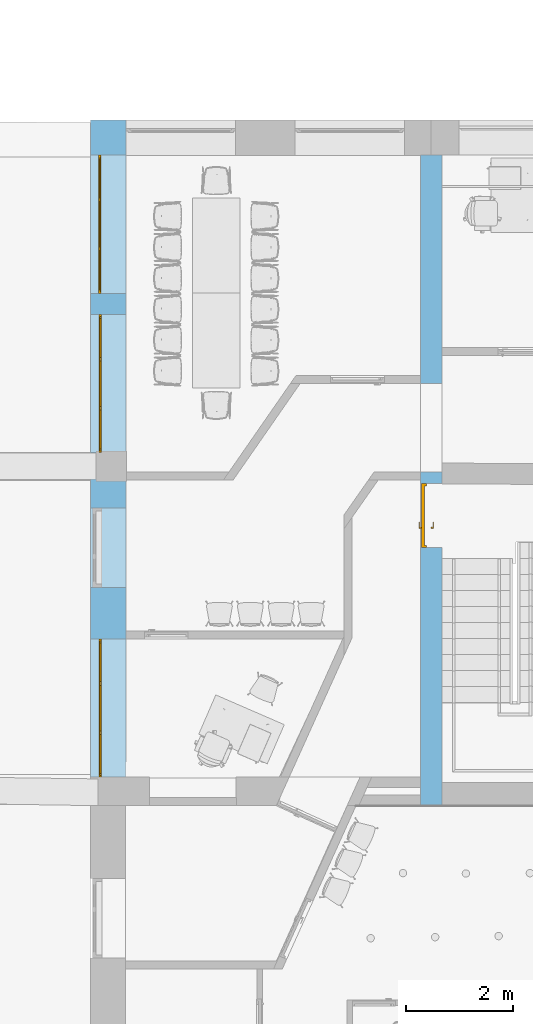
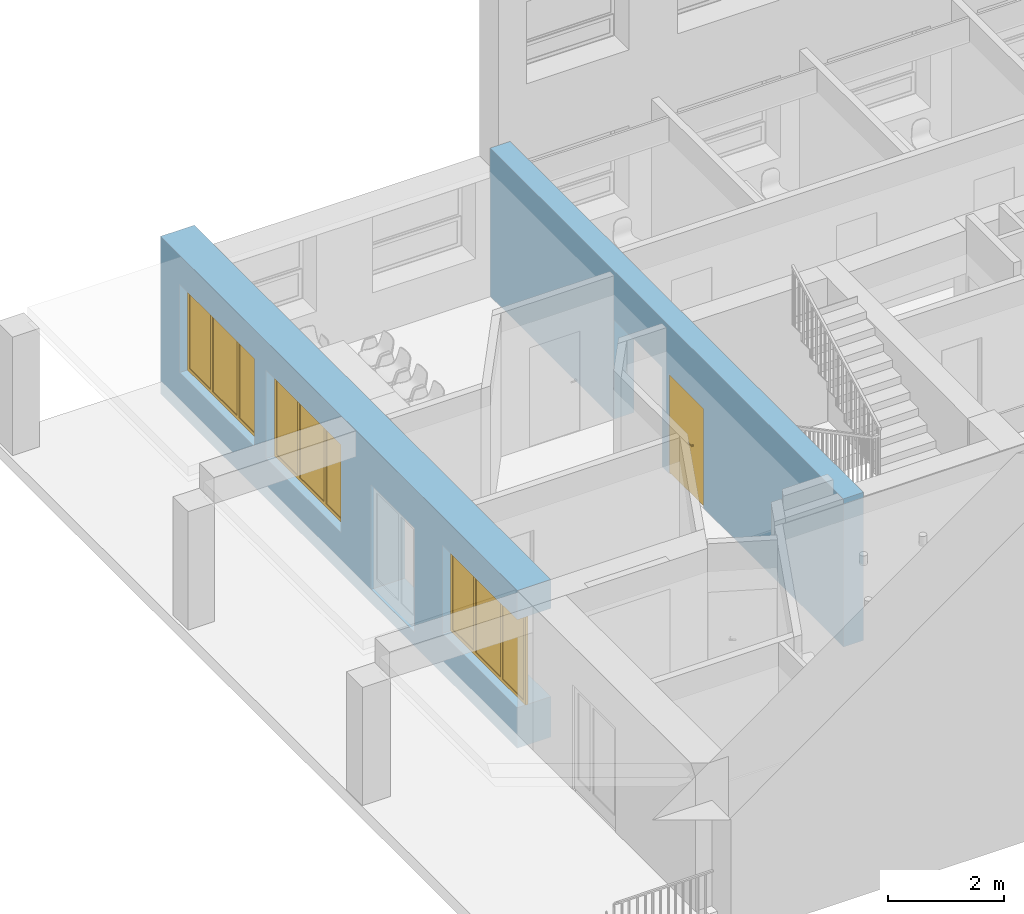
# One storey, part 15 of 25: 3 windows, 1 door, 8 openings, plus 2 elements that do not belong to this part.
"""IFC2X3 building model written with IfcOpenShell, lengths in millimetres."""

from ifc_helpers import new_model, entity, si_unit, converted_unit, derived_unit, direction, frame, frame_2d, origin, place, context, subcontext, project, spatial, polyline, rectangle, extrude, clip, bounded_halfspace, faceted_brep, source, transform, mapped, material, material_list, layer, layer_set, layer_usage, type_object, type_shapes, element, fill, save


model = new_model("IFC2X3")

# Units and contexts
model_context = context("Model", 3, precision=0.01, world=origin(), true_north=direction((6.12303176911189e-17, 1.0)))
context_of_model = context(None, 3, precision=0.01, world=origin(), true_north=direction((6.12303176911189e-17, 1.0)))
body_context = subcontext(model_context, "Body", "Model", "MODEL_VIEW")
ifc_project = project(units=[si_unit("LENGTHUNIT", "METRE", prefix="MILLI"), si_unit("AREAUNIT", "SQUARE_METRE"), si_unit("VOLUMEUNIT", "CUBIC_METRE"), converted_unit("PLANEANGLEUNIT", "DEGREE", entity("IfcRatioMeasure", 0.0174532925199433), si_unit("PLANEANGLEUNIT", "RADIAN"), dimensions=[0, 0, 0, 0, 0, 0, 0]), si_unit("MASSUNIT", "GRAM", prefix="KILO"), derived_unit("MASSDENSITYUNIT", [(si_unit("MASSUNIT", "GRAM", prefix="KILO"), 1), (si_unit("LENGTHUNIT", "METRE"), -3)]), si_unit("TIMEUNIT", "SECOND"), si_unit("FREQUENCYUNIT", "HERTZ"), si_unit("THERMODYNAMICTEMPERATUREUNIT", "DEGREE_CELSIUS"), derived_unit("THERMALTRANSMITTANCEUNIT", [(si_unit("MASSUNIT", "GRAM", prefix="KILO"), 1), (si_unit("THERMODYNAMICTEMPERATUREUNIT", "KELVIN"), -1), (si_unit("TIMEUNIT", "SECOND"), -3)]), derived_unit("VOLUMETRICFLOWRATEUNIT", [(si_unit("LENGTHUNIT", "METRE"), 3), (si_unit("TIMEUNIT", "SECOND"), -1)]), si_unit("ELECTRICCURRENTUNIT", "AMPERE"), si_unit("ELECTRICVOLTAGEUNIT", "VOLT"), si_unit("POWERUNIT", "WATT"), si_unit("FORCEUNIT", "NEWTON", prefix="KILO"), si_unit("ILLUMINANCEUNIT", "LUX"), si_unit("LUMINOUSFLUXUNIT", "LUMEN"), si_unit("LUMINOUSINTENSITYUNIT", "CANDELA"), derived_unit("USERDEFINED", [(si_unit("MASSUNIT", "GRAM", prefix="KILO"), -1), (si_unit("LENGTHUNIT", "METRE"), -2), (si_unit("TIMEUNIT", "SECOND"), 3), (si_unit("LUMINOUSFLUXUNIT", "LUMEN"), 1)]), derived_unit("LINEARVELOCITYUNIT", [(si_unit("LENGTHUNIT", "METRE"), 1), (si_unit("TIMEUNIT", "SECOND"), -1)]), si_unit("PRESSUREUNIT", "PASCAL"), derived_unit("USERDEFINED", [(si_unit("LENGTHUNIT", "METRE"), -2), (si_unit("MASSUNIT", "GRAM", prefix="KILO"), 1), (si_unit("TIMEUNIT", "SECOND"), -2)])], contexts=[model_context, context_of_model])

# Site, building, storey
site_placement = place(None, frame((121442.264707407, 135347.995453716, -1800.0)))
site = spatial("IfcSite", under=ifc_project, at=site_placement, Name="Surface", CompositionType="ELEMENT")
building_placement = place(site_placement, origin())
building = spatial("IfcBuilding", under=site, at=building_placement, CompositionType="ELEMENT")
storey_placement = place(building_placement, frame((0.0, 0.0, 1800.0)))
storey = spatial("IfcBuildingStorey", under=building, at=storey_placement, Name="1 korrus", CompositionType="ELEMENT", Elevation=1800.00000000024)

# Wall, openings, door
ifc_material_1 = material(Name="__Betoonelement")
ifc_layer_1 = layer(ifc_material_1, 400.0)
ifc_layer_set_1 = layer_set([ifc_layer_1], Name="Basic Wall:40_Betoon")
ifc_layer_usage_1 = layer_usage(ifc_layer_set_1, "AXIS2", "POSITIVE", -200.0)
wall_type_1 = type_object("IfcWallType", Name="Basic Wall:40_Betoon", PredefinedType="STANDARD", material=ifc_layer_set_1)
wall_1_placement = place(storey_placement, frame((-109493.017140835, -115341.919112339, 0.0), z_axis=(0.0, 0.0, 1.0), x_axis=(0.0, -1.0, 0.0)))
wall_1 = element("IfcWallStandardCase", 1, at=wall_1_placement, inside=storey, type_object=wall_type_1, material=ifc_layer_usage_1, Name="Basic Wall:40_Betoon", ObjectType="Basic Wall:40_Betoon", context=body_context, shape_type="SweptSolid", body=[
    extrude(rectangle(XDim=12198.9278561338, YDim=399.999999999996, at=frame_2d((6099.46392806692, 8.65441052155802e-12), x_axis=(1.0, 0.0))), origin(), (0.0, 0.0, 1.0), 3125.0),
])
opening_1_placement = place(wall_1_placement, origin())
element("IfcOpeningElement", 2, at=opening_1_placement, cuts=wall_1, Name="Basic Wall:40_Betoon", ObjectType="Opening", context=body_context, shape_type="SweptSolid", body=[
    extrude(rectangle(XDim=2100.0, YDim=1661.71422079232, at=frame_2d((0.0, -8.69704308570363e-12), x_axis=(1.0, 0.0))), frame((5107.92345142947, -200.0, 1050.0), z_axis=(0.0, 1.0, 0.0), x_axis=(0.0, 0.0, -1.0)), (0.0, 0.0, 1.0), 400.000000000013),
])
opening_2_placement = place(wall_1_placement, origin())
element("IfcOpeningElement", 3, at=opening_2_placement, cuts=wall_1, Name="Basic Wall:40_Betoon", ObjectType="Opening", context=body_context, shape_type="SweptSolid", body=[
    extrude(rectangle(XDim=1600.0, YDim=670.000000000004, at=frame_2d((-8.66862137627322e-12, 2.27373675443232e-13), x_axis=(0.0, 1.0))), frame((-325.0, -2550.0, 1700.0), z_axis=(0.0, 1.0, 0.0), x_axis=(1.0, 0.0, 0.0)), (0.0, 0.0, 1.0), 2050.0),
])
opening_3_placement = place(wall_1_placement, frame((7360.06748410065, 200.0, 0.0)))
opening_3 = element("IfcOpeningElement", 4, at=opening_3_placement, cuts=wall_1, Name="sma_D02:1200 x 2100mm SU-7 Liigendiga siseuks:1", ObjectType="Opening", context=body_context, shape_type="SweptSolid", body=[
    extrude(rectangle(XDim=2099.99999999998, YDim=1200.0, at=frame_2d((1049.99999999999, 600.0), x_axis=(1.0, 0.0))), frame((0.0, 0.0, 0.0), z_axis=(0.0, -1.0, 0.0), x_axis=(0.0, 0.0, 1.0)), (0.0, 0.0, 1.0), 400.0),
])
ifc_material_2 = material(Name="Metal - Aluminium")
door_style = type_object("IfcDoorStyle", Name="1200 x 2100mm SU-7 Liigendiga siseuks", ConstructionType="USERDEFINED", OperationType="NOTDEFINED", ParameterTakesPrecedence=False, Sizeable=False, material=ifc_material_2)
shared_shape_1 = source(origin(), body_context, "Body", "Brep", [
    faceted_brep([(387.499999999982, 165.0, 1100.0), (387.499999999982, 203.0, 1100.0), (362.499999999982, 203.0, 1100.0), (362.499999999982, 160.0, 1100.0), (482.499999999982, 160.0, 1100.0), (482.499999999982, 165.0, 1100.0), (387.499999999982, 165.0, 1075.0), (482.499999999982, 165.0, 1075.0), (482.499999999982, 160.0, 1075.0), (362.499999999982, 160.0, 1075.0), (362.499999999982, 203.0, 1075.0), (387.499999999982, 203.0, 1075.0)], [[[0, 1, 2, 3, 4, 5]], [[6, 7, 8, 9, 10, 11]], [[1, 0, 6, 11]], [[2, 1, 11, 10]], [[3, 2, 10, 9]], [[4, 3, 9, 8]], [[5, 4, 8, 7]], [[0, 5, 7, 6]]]),
    faceted_brep([(400.0, 203.0, 1125.0), (400.0, 205.0, 1125.0), (350.0, 205.0, 1125.0), (350.0, 203.0, 1125.0), (400.0, 203.0, 1005.0), (350.0, 203.0, 1005.0), (350.0, 205.0, 1005.0), (400.0, 205.0, 1005.0)], [[[0, 1, 2, 3]], [[4, 5, 6, 7]], [[1, 0, 4, 7]], [[2, 1, 7, 6]], [[3, 2, 6, 5]], [[0, 3, 5, 4]]]),
    faceted_brep([(387.499999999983, 420.432966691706, 1100.0), (482.499999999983, 420.432966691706, 1100.0), (482.499999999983, 425.432966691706, 1100.0), (362.499999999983, 425.432966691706, 1100.0), (362.499999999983, 382.432966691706, 1100.0), (387.499999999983, 382.432966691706, 1100.0), (387.499999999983, 420.432966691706, 1075.0), (387.499999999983, 382.432966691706, 1075.0), (362.499999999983, 382.432966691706, 1075.0), (362.499999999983, 425.432966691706, 1075.0), (482.499999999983, 425.432966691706, 1075.0), (482.499999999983, 420.432966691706, 1075.0)], [[[0, 1, 2, 3, 4, 5]], [[6, 7, 8, 9, 10, 11]], [[5, 7, 6, 0]], [[4, 8, 7, 5]], [[3, 9, 8, 4]], [[2, 10, 9, 3]], [[1, 11, 10, 2]], [[0, 6, 11, 1]]]),
    faceted_brep([(400.0, 382.432966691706, 1125.0), (350.0, 382.432966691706, 1125.0), (350.0, 380.432966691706, 1125.0), (400.0, 380.432966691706, 1125.0), (400.0, 382.432966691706, 1005.0), (400.0, 380.432966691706, 1005.0), (350.0, 380.432966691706, 1005.0), (350.0, 382.432966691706, 1005.0)], [[[0, 1, 2, 3]], [[4, 5, 6, 7]], [[3, 5, 4, 0]], [[2, 6, 5, 3]], [[1, 7, 6, 2]], [[0, 4, 7, 1]]]),
    faceted_brep([(1200.0, 290.43296669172, 0.0), (1160.0, 290.43296669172, 0.0), (1160.0, 330.43296669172, 0.0), (1175.0, 330.43296669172, 0.0), (1175.0, 380.43296669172, 0.0), (1200.0, 380.43296669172, 0.0), (1200.0, 290.43296669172, 2100.0), (0.0, 290.432966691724, 2100.0), (0.0, 290.432966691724, 0.0), (40.0, 290.432966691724, 0.0), (40.0, 290.432966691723, 2060.0), (1160.0, 290.43296669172, 2060.0), (1160.0, 330.43296669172, 2060.0), (40.0, 330.432966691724, 2060.0), (40.0, 330.432966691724, 0.0), (25.0, 330.432966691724, 0.0), (25.0, 330.432966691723, 2075.0), (1175.0, 330.43296669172, 2075.0), (1175.0, 380.43296669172, 2075.0), (25.0, 380.432966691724, 2075.0), (25.0, 380.432966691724, 0.0), (0.0, 380.432966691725, 0.0), (0.0, 380.432966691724, 2100.0), (1200.0, 380.43296669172, 2100.0)], [[[0, 1, 2, 3, 4, 5]], [[1, 0, 6, 7, 8, 9, 10, 11]], [[2, 1, 11, 12]], [[3, 2, 12, 13, 14, 15, 16, 17]], [[4, 3, 17, 18]], [[5, 4, 18, 19, 20, 21, 22, 23]], [[0, 5, 23, 6]], [[7, 22, 21, 8]], [[8, 21, 20, 15, 14, 9]], [[13, 10, 9, 14]], [[19, 16, 15, 20]], [[12, 11, 10, 13]], [[18, 17, 16, 19]], [[6, 23, 22, 7]]]),
    faceted_brep([(25.0, 330.432966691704, 20.0), (300.0, 330.432966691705, 20.0), (300.0, 330.432966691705, 2075.0), (25.0, 330.432966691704, 2075.0), (25.0, 380.432966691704, 20.0), (25.0, 380.432966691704, 2075.0), (300.0, 380.432966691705, 2075.0), (300.0, 380.432966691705, 20.0)], [[[0, 1, 2, 3]], [[4, 5, 6, 7]], [[1, 0, 4, 7]], [[2, 1, 7, 6]], [[3, 2, 6, 5]], [[0, 3, 5, 4]]]),
    faceted_brep([(300.0, 330.432966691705, 2075.0), (300.0, 330.432966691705, 20.0), (1175.0, 330.432966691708, 20.0), (1175.0, 330.432966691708, 2075.0), (300.0, 380.432966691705, 2075.0), (1175.0, 380.432966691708, 2075.0), (1175.0, 380.432966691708, 20.0), (300.0, 380.432966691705, 20.0)], [[[0, 1, 2, 3]], [[4, 5, 6, 7]], [[1, 0, 4, 7]], [[2, 1, 7, 6]], [[3, 2, 6, 5]], [[0, 3, 5, 4]]]),
])
type_shapes(door_style, [shared_shape_1])
door_placement = place(opening_3_placement, frame((0.0, 0.0, 0.0), z_axis=(0.0, 0.0, 1.0), x_axis=(-1.0, 0.0, 0.0)))
door = element("IfcDoor", 5, at=door_placement, inside=storey, type_object=door_style, material=ifc_material_2, Name="sma_D02:1200 x 2100mm SU-7 Liigendiga siseuks", ObjectType="1200 x 2100mm SU-7 Liigendiga siseuks", OverallHeight=2099.99999999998, OverallWidth=1200.0, context=body_context, shape_type="MappedRepresentation", body=[
    mapped(shared_shape_1, transform((0.0, 0.0, 0.0), scale=1.0)),
])
fill(opening_3, door)

# Wall, openings, windows
ifc_material_3 = material(Name="Plaster")
ifc_layer_2 = layer(ifc_material_3, 10.0)
ifc_material_4 = material(Name="EST. Soojustus. Kivivill. Default")
ifc_layer_3 = layer(ifc_material_4, 200.0)
ifc_material_5 = material(Name="EST. Müüritis. Väikeplokk. Kergkruusplokk")
ifc_layer_4 = layer(ifc_material_5, 450.0)
ifc_layer_5 = layer(ifc_material_3, 10.0)
ifc_layer_set_2 = layer_set([ifc_layer_2, ifc_layer_3, ifc_layer_4, ifc_layer_5], Name="Basic Wall:Uus Välissein +  Soojustus")
ifc_layer_usage_2 = layer_usage(ifc_layer_set_2, "AXIS2", "NEGATIVE", 335.0)
wall_type_2 = type_object("IfcWallType", Name="Basic Wall:Uus Välissein +  Soojustus", PredefinedType="STANDARD", material=ifc_layer_set_2)
wall_2_placement = place(storey_placement, frame((-115550.776610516, -127001.313002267, -293.0), z_axis=(0.0, 0.0, 1.0), x_axis=(0.0, 1.0, 0.0)))
wall_2 = element("IfcWallStandardCase", 6, at=wall_2_placement, inside=storey, type_object=wall_type_2, material=ifc_layer_usage_2, Name="Basic Wall:Uus Välissein +  Soojustus", ObjectType="Basic Wall:Uus Välissein +  Soojustus", context=body_context, shape_type="Clipping", body=[
    clip(extrude(rectangle(XDim=12319.3938899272, YDim=669.999999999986, at=frame_2d((6159.6969449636, -8.24229573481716e-13), x_axis=(-1.0, 0.0))), origin(), (0.0, 0.0, 1.0), 3325.0), bounded_halfspace(frame((0.0, -335.0, 3325.0), z_axis=(0.0, 0.0, -1.0), x_axis=(-1.0, 0.0, 0.0)), True, frame((0.0, -335.0, 3325.0)), polyline([(0.0, 0.0), (2586.5444377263, 0.0), (2736.5444377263, 0.0), (11897.7285110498, 0.0), (11897.7285110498, 670.0), (0.0, 670.0), (0.0, 0.0)]))),
])
opening_4_placement = place(wall_2_placement, origin())
element("IfcOpeningElement", 7, at=opening_4_placement, cuts=wall_2, Name="Basic Wall:Uus Välissein +  Soojustus", ObjectType="Opening", context=body_context, shape_type="SweptSolid", body=[
    extrude(rectangle(XDim=2099.99999999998, YDim=150.000000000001, at=frame_2d((0.0, 3.41060513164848e-13), x_axis=(0.0, 1.0))), frame((2661.54443772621, -1495.0, 1343.0), z_axis=(0.0, 1.0, 0.0), x_axis=(1.0, 0.0, 0.0)), (0.0, 0.0, 1.0), 810.000000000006),
])
opening_5_placement = place(wall_2_placement, frame((-5.15156816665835, -335.0, 853.0)))
opening_5 = element("IfcOpeningElement", 8, at=opening_5_placement, cuts=wall_2, Name="sma_W5:A-6 2590 x 1700mm Mitteavatav:1", ObjectType="Opening", context=body_context, shape_type="SweptSolid", body=[
    extrude(rectangle(XDim=1860.0, YDim=2590.0, at=frame_2d((930.0, 1295.0), x_axis=(1.0, 0.0))), frame((0.0, 0.0, 0.0), z_axis=(0.0, 1.0, 0.0), x_axis=(0.0, 0.0, 1.0)), (0.0, 0.0, 1.0), 670.0),
])
opening_6_placement = place(wall_2_placement, frame((3554.84843183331, -335.0, 293.0)))
element("IfcOpeningElement", 9, at=opening_6_placement, cuts=wall_2, Name="ULO1 - ulkolasipariovi:1400x2200 VU-1 Välisuks:1", ObjectType="Opening", context=body_context, shape_type="SweptSolid", body=[
    extrude(rectangle(XDim=2200.0, YDim=1490.0, at=frame_2d((1100.0, 745.0), x_axis=(1.0, 0.0))), frame((0.0, 0.0, 0.0), z_axis=(0.0, 1.0, 0.0), x_axis=(0.0, 0.0, 1.0)), (0.0, 0.0, 1.0), 670.0),
])
opening_7_placement = place(wall_2_placement, frame((9069.39388992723, -335.0, 853.0)))
opening_7 = element("IfcOpeningElement", 10, at=opening_7_placement, cuts=wall_2, Name="sma_W5:A-6 2590 x 1700mm Mitteavatav:1", ObjectType="Opening", context=body_context, shape_type="SweptSolid", body=[
    extrude(rectangle(XDim=1860.0, YDim=2590.0, at=frame_2d((930.0, 1295.0), x_axis=(1.0, 0.0))), frame((0.0, 0.0, 0.0), z_axis=(0.0, 1.0, 0.0), x_axis=(0.0, 0.0, 1.0)), (0.0, 0.0, 1.0), 670.0),
])
opening_8_placement = place(wall_2_placement, frame((6079.39388992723, -335.0, 853.0)))
opening_8 = element("IfcOpeningElement", 11, at=opening_8_placement, cuts=wall_2, Name="sma_W5:A-6 2590 x 1700mm Mitteavatav:1", ObjectType="Opening", context=body_context, shape_type="SweptSolid", body=[
    extrude(rectangle(XDim=1860.0, YDim=2590.0, at=frame_2d((930.0, 1295.0), x_axis=(1.0, 0.0))), frame((0.0, 0.0, 0.0), z_axis=(0.0, 1.0, 0.0), x_axis=(0.0, 0.0, 1.0)), (0.0, 0.0, 1.0), 670.0),
])
ifc_material_6 = material(Name="Glass")
ifc_material_7 = material(Name="PVC")
ifc_material_list_1 = material_list([ifc_material_6, ifc_material_7])
ifc_material_list_2 = material_list([ifc_material_6, ifc_material_7])
window_style_1 = type_object("IfcWindowStyle", Name="A-6 2590 x 1700mm Mitteavatav", ConstructionType="OTHER_CONSTRUCTION", OperationType="NOTDEFINED", ParameterTakesPrecedence=False, Sizeable=False, material=ifc_material_list_2)
shared_shape_2 = source(origin(), body_context, "Body", "Brep", [
    faceted_brep([(70.0, 480.730916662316, 70.0), (800.0, 480.730916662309, 70.0), (800.0, 480.730916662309, 1790.0), (70.0, 480.730916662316, 1790.0), (70.0, 500.730916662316, 70.0), (800.0, 500.730916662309, 70.0), (800.0, 500.730916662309, 1790.0), (70.0, 500.730916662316, 1790.0)], [[[0, 1, 2, 3]], [[1, 0, 4, 5]], [[2, 1, 5, 6]], [[0, 3, 7, 4]], [[4, 7, 6, 5]], [[3, 2, 6, 7]]]),
    faceted_brep([(870.0, 480.730916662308, 70.0), (1720.0, 480.7309166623, 70.0), (1720.0, 480.7309166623, 1790.0), (870.0, 480.730916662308, 1790.0), (870.0, 500.730916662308, 70.0), (1720.0, 500.7309166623, 70.0), (1720.0, 500.7309166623, 1790.0), (870.0, 500.730916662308, 1790.0)], [[[0, 1, 2, 3]], [[1, 0, 4, 5]], [[2, 1, 5, 6]], [[0, 3, 7, 4]], [[4, 7, 6, 5]], [[3, 2, 6, 7]]]),
    faceted_brep([(1790.0, 480.730916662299, 70.0), (2520.0, 480.730916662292, 70.0), (2520.0, 480.730916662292, 1790.0), (1790.0, 480.730916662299, 1790.0), (1790.0, 500.730916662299, 70.0), (2520.0, 500.730916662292, 70.0), (2520.0, 500.730916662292, 1790.0), (1790.0, 500.730916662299, 1790.0)], [[[0, 1, 2, 3]], [[1, 0, 4, 5]], [[2, 1, 5, 6]], [[0, 3, 7, 4]], [[4, 7, 6, 5]], [[3, 2, 6, 7]]]),
    faceted_brep([(0.0, 465.730916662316, 0.0), (2590.0, 465.730916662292, 0.0), (2590.0, 465.730916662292, 1860.0), (0.0, 465.730916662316, 1860.0), (35.0, 465.730916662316, 1825.0), (2555.0, 465.730916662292, 1825.0), (2555.0, 465.730916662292, 35.0), (35.0, 465.730916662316, 35.0), (0.0, 515.730916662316, 0.0), (2590.0, 515.730916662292, 0.0), (2590.0, 515.730916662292, 1860.0), (0.0, 515.730916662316, 1860.0), (2555.0, 490.730916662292, 1825.0), (2555.0, 490.730916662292, 35.0), (35.0, 490.730916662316, 35.0), (35.0, 490.730916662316, 1825.0), (70.0, 515.730916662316, 70.0), (800.0, 515.730916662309, 70.0), (800.0, 515.730916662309, 1790.0), (70.0, 515.730916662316, 1790.0), (870.0, 515.730916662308, 1790.0), (870.0, 515.730916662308, 70.0), (1720.0, 515.7309166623, 70.0), (1720.0, 515.7309166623, 1790.0), (1790.0, 515.730916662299, 70.0), (2520.0, 515.730916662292, 70.0), (2520.0, 515.730916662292, 1790.0), (1790.0, 515.730916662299, 1790.0), (1790.0, 490.730916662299, 70.0), (2520.0, 490.730916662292, 70.0), (2520.0, 490.730916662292, 1790.0), (1790.0, 490.730916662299, 1790.0), (870.0, 490.730916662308, 1790.0), (870.0, 490.730916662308, 70.0), (1720.0, 490.7309166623, 70.0), (1720.0, 490.7309166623, 1790.0), (70.0, 490.730916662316, 70.0), (800.0, 490.730916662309, 70.0), (800.0, 490.730916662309, 1790.0), (70.0, 490.730916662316, 1790.0)], [[[0, 1, 2, 3], [4, 5, 6, 7]], [[1, 0, 8, 9]], [[2, 1, 9, 10]], [[0, 3, 11, 8]], [[12, 13, 6, 5]], [[6, 13, 14, 7]], [[14, 15, 4, 7]], [[8, 11, 10, 9], [16, 17, 18, 19], [20, 21, 22, 23], [24, 25, 26, 27]], [[25, 24, 28, 29]], [[26, 25, 29, 30]], [[24, 27, 31, 28]], [[21, 20, 32, 33]], [[22, 21, 33, 34]], [[23, 22, 34, 35]], [[17, 16, 36, 37]], [[18, 17, 37, 38]], [[16, 19, 39, 36]], [[13, 12, 15, 14], [28, 31, 30, 29], [36, 39, 38, 37], [32, 35, 34, 33]], [[3, 2, 10, 11]], [[15, 12, 5, 4]], [[27, 26, 30, 31]], [[20, 23, 35, 32]], [[19, 18, 38, 39]]]),
])
type_shapes(window_style_1, [shared_shape_2])
window_1_placement = place(opening_7_placement, origin())
window_1 = element("IfcWindow", 12, at=window_1_placement, inside=storey, type_object=window_style_1, material=ifc_material_list_1, Name="sma_W5:A-6 2590 x 1700mm Mitteavatav", ObjectType="A-6 2590 x 1700mm Mitteavatav", OverallHeight=1860.0, OverallWidth=2590.0, context=body_context, shape_type="MappedRepresentation", body=[
    mapped(shared_shape_2, transform((0.0, 0.0, 0.0), scale=1.0)),
])
fill(opening_7, window_1)
ifc_material_list_3 = material_list([ifc_material_6, ifc_material_7])
ifc_material_list_4 = material_list([ifc_material_6, ifc_material_7])
window_style_2 = type_object("IfcWindowStyle", Name="A-6 2590 x 1700mm Mitteavatav", ConstructionType="OTHER_CONSTRUCTION", OperationType="NOTDEFINED", ParameterTakesPrecedence=False, Sizeable=False, material=ifc_material_list_4)
shared_shape_3 = source(origin(), body_context, "Body", "Brep", [
    faceted_brep([(70.0, 473.696191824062, 70.0), (800.0, 473.696191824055, 70.0), (800.0, 473.696191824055, 1790.0), (70.0, 473.696191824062, 1790.0), (70.0, 493.696191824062, 70.0), (800.0, 493.696191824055, 70.0), (800.0, 493.696191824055, 1790.0), (70.0, 493.696191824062, 1790.0)], [[[0, 1, 2, 3]], [[1, 0, 4, 5]], [[2, 1, 5, 6]], [[0, 3, 7, 4]], [[4, 7, 6, 5]], [[3, 2, 6, 7]]]),
    faceted_brep([(870.0, 473.696191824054, 70.0), (1720.0, 473.696191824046, 70.0), (1720.0, 473.696191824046, 1790.0), (870.0, 473.696191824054, 1790.0), (870.0, 493.696191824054, 70.0), (1720.0, 493.696191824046, 70.0), (1720.0, 493.696191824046, 1790.0), (870.0, 493.696191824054, 1790.0)], [[[0, 1, 2, 3]], [[1, 0, 4, 5]], [[2, 1, 5, 6]], [[0, 3, 7, 4]], [[4, 7, 6, 5]], [[3, 2, 6, 7]]]),
    faceted_brep([(1790.0, 473.696191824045, 70.0), (2520.0, 473.696191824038, 70.0), (2520.0, 473.696191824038, 1790.0), (1790.0, 473.696191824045, 1790.0), (1790.0, 493.696191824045, 70.0), (2520.0, 493.696191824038, 70.0), (2520.0, 493.696191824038, 1790.0), (1790.0, 493.696191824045, 1790.0)], [[[0, 1, 2, 3]], [[1, 0, 4, 5]], [[2, 1, 5, 6]], [[0, 3, 7, 4]], [[4, 7, 6, 5]], [[3, 2, 6, 7]]]),
    faceted_brep([(0.0, 458.696191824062, 0.0), (2590.0, 458.696191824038, 0.0), (2590.0, 458.696191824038, 1860.0), (0.0, 458.696191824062, 1860.0), (35.0, 458.696191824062, 1825.0), (2555.0, 458.696191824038, 1825.0), (2555.0, 458.696191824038, 35.0), (35.0, 458.696191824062, 35.0), (0.0, 508.696191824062, 0.0), (2590.0, 508.696191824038, 0.0), (2590.0, 508.696191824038, 1860.0), (0.0, 508.696191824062, 1860.0), (2555.0, 483.696191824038, 1825.0), (2555.0, 483.696191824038, 35.0), (35.0, 483.696191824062, 35.0), (35.0, 483.696191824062, 1825.0), (70.0, 508.696191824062, 70.0), (800.0, 508.696191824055, 70.0), (800.0, 508.696191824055, 1790.0), (70.0, 508.696191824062, 1790.0), (870.0, 508.696191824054, 1790.0), (870.0, 508.696191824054, 70.0), (1720.0, 508.696191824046, 70.0), (1720.0, 508.696191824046, 1790.0), (1790.0, 508.696191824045, 70.0), (2520.0, 508.696191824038, 70.0), (2520.0, 508.696191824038, 1790.0), (1790.0, 508.696191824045, 1790.0), (1790.0, 483.696191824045, 70.0), (2520.0, 483.696191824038, 70.0), (2520.0, 483.696191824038, 1790.0), (1790.0, 483.696191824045, 1790.0), (870.0, 483.696191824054, 1790.0), (870.0, 483.696191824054, 70.0), (1720.0, 483.696191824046, 70.0), (1720.0, 483.696191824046, 1790.0), (70.0, 483.696191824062, 70.0), (800.0, 483.696191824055, 70.0), (800.0, 483.696191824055, 1790.0), (70.0, 483.696191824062, 1790.0)], [[[0, 1, 2, 3], [4, 5, 6, 7]], [[1, 0, 8, 9]], [[2, 1, 9, 10]], [[0, 3, 11, 8]], [[12, 13, 6, 5]], [[6, 13, 14, 7]], [[14, 15, 4, 7]], [[8, 11, 10, 9], [16, 17, 18, 19], [20, 21, 22, 23], [24, 25, 26, 27]], [[25, 24, 28, 29]], [[26, 25, 29, 30]], [[24, 27, 31, 28]], [[21, 20, 32, 33]], [[22, 21, 33, 34]], [[23, 22, 34, 35]], [[17, 16, 36, 37]], [[18, 17, 37, 38]], [[16, 19, 39, 36]], [[13, 12, 15, 14], [28, 31, 30, 29], [36, 39, 38, 37], [32, 35, 34, 33]], [[3, 2, 10, 11]], [[15, 12, 5, 4]], [[27, 26, 30, 31]], [[20, 23, 35, 32]], [[19, 18, 38, 39]]]),
])
type_shapes(window_style_2, [shared_shape_3])
window_2_placement = place(opening_8_placement, origin())
window_2 = element("IfcWindow", 13, at=window_2_placement, inside=storey, type_object=window_style_2, material=ifc_material_list_3, Name="sma_W5:A-6 2590 x 1700mm Mitteavatav", ObjectType="A-6 2590 x 1700mm Mitteavatav", OverallHeight=1860.0, OverallWidth=2590.0, context=body_context, shape_type="MappedRepresentation", body=[
    mapped(shared_shape_3, transform((0.0, 0.0, 0.0), scale=1.0)),
])
fill(opening_8, window_2)
ifc_material_list_5 = material_list([ifc_material_6, ifc_material_7])
ifc_material_list_6 = material_list([ifc_material_6, ifc_material_7])
window_style_3 = type_object("IfcWindowStyle", Name="A-6 2590 x 1700mm Mitteavatav", ConstructionType="OTHER_CONSTRUCTION", OperationType="NOTDEFINED", ParameterTakesPrecedence=False, Sizeable=False, material=ifc_material_list_6)
shared_shape_4 = source(origin(), body_context, "Body", "Brep", [
    faceted_brep([(70.0, 474.13431236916, 70.0), (800.0, 474.134312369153, 70.0), (800.0, 474.134312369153, 1790.0), (70.0, 474.13431236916, 1790.0), (70.0, 494.13431236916, 70.0), (800.0, 494.134312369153, 70.0), (800.0, 494.134312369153, 1790.0), (70.0, 494.13431236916, 1790.0)], [[[0, 1, 2, 3]], [[1, 0, 4, 5]], [[2, 1, 5, 6]], [[0, 3, 7, 4]], [[4, 7, 6, 5]], [[3, 2, 6, 7]]]),
    faceted_brep([(870.0, 474.134312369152, 70.0), (1720.0, 474.134312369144, 70.0), (1720.0, 474.134312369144, 1790.0), (870.0, 474.134312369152, 1790.0), (870.0, 494.134312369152, 70.0), (1720.0, 494.134312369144, 70.0), (1720.0, 494.134312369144, 1790.0), (870.0, 494.134312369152, 1790.0)], [[[0, 1, 2, 3]], [[1, 0, 4, 5]], [[2, 1, 5, 6]], [[0, 3, 7, 4]], [[4, 7, 6, 5]], [[3, 2, 6, 7]]]),
    faceted_brep([(1790.0, 474.134312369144, 70.0), (2520.0, 474.134312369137, 70.0), (2520.0, 474.134312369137, 1790.0), (1790.0, 474.134312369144, 1790.0), (1790.0, 494.134312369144, 70.0), (2520.0, 494.134312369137, 70.0), (2520.0, 494.134312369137, 1790.0), (1790.0, 494.134312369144, 1790.0)], [[[0, 1, 2, 3]], [[1, 0, 4, 5]], [[2, 1, 5, 6]], [[0, 3, 7, 4]], [[4, 7, 6, 5]], [[3, 2, 6, 7]]]),
    faceted_brep([(0.0, 459.134312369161, 0.0), (2590.0, 459.134312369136, 0.0), (2590.0, 459.134312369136, 1860.0), (0.0, 459.134312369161, 1860.0), (35.0, 459.13431236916, 1825.0), (2555.0, 459.134312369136, 1825.0), (2555.0, 459.134312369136, 35.0), (35.0, 459.13431236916, 35.0), (0.0, 509.134312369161, 0.0), (2590.0, 509.134312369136, 0.0), (2590.0, 509.134312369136, 1860.0), (0.0, 509.134312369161, 1860.0), (2555.0, 484.134312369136, 1825.0), (2555.0, 484.134312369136, 35.0), (35.0, 484.13431236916, 35.0), (35.0, 484.13431236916, 1825.0), (70.0, 509.13431236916, 70.0), (800.0, 509.134312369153, 70.0), (800.0, 509.134312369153, 1790.0), (70.0, 509.13431236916, 1790.0), (870.0, 509.134312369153, 1790.0), (870.0, 509.134312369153, 70.0), (1720.0, 509.134312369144, 70.0), (1720.0, 509.134312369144, 1790.0), (1790.0, 509.134312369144, 70.0), (2520.0, 509.134312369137, 70.0), (2520.0, 509.134312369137, 1790.0), (1790.0, 509.134312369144, 1790.0), (1790.0, 484.134312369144, 70.0), (2520.0, 484.134312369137, 70.0), (2520.0, 484.134312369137, 1790.0), (1790.0, 484.134312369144, 1790.0), (870.0, 484.134312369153, 1790.0), (870.0, 484.134312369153, 70.0), (1720.0, 484.134312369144, 70.0), (1720.0, 484.134312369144, 1790.0), (70.0, 484.13431236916, 70.0), (800.0, 484.134312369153, 70.0), (800.0, 484.134312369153, 1790.0), (70.0, 484.13431236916, 1790.0)], [[[0, 1, 2, 3], [4, 5, 6, 7]], [[1, 0, 8, 9]], [[2, 1, 9, 10]], [[0, 3, 11, 8]], [[12, 13, 6, 5]], [[6, 13, 14, 7]], [[14, 15, 4, 7]], [[8, 11, 10, 9], [16, 17, 18, 19], [20, 21, 22, 23], [24, 25, 26, 27]], [[25, 24, 28, 29]], [[26, 25, 29, 30]], [[24, 27, 31, 28]], [[21, 20, 32, 33]], [[22, 21, 33, 34]], [[23, 22, 34, 35]], [[17, 16, 36, 37]], [[18, 17, 37, 38]], [[16, 19, 39, 36]], [[13, 12, 15, 14], [28, 31, 30, 29], [36, 39, 38, 37], [32, 35, 34, 33]], [[3, 2, 10, 11]], [[15, 12, 5, 4]], [[27, 26, 30, 31]], [[20, 23, 35, 32]], [[19, 18, 38, 39]]]),
])
type_shapes(window_style_3, [shared_shape_4])
window_3_placement = place(opening_5_placement, origin())
window_3 = element("IfcWindow", 14, at=window_3_placement, inside=storey, type_object=window_style_3, material=ifc_material_list_5, Name="sma_W5:A-6 2590 x 1700mm Mitteavatav", ObjectType="A-6 2590 x 1700mm Mitteavatav", OverallHeight=1860.0, OverallWidth=2590.0, context=body_context, shape_type="MappedRepresentation", body=[
    mapped(shared_shape_4, transform((0.0, 0.0, 0.0), scale=1.0)),
])
fill(opening_5, window_3)

save(model, "model.ifc")
